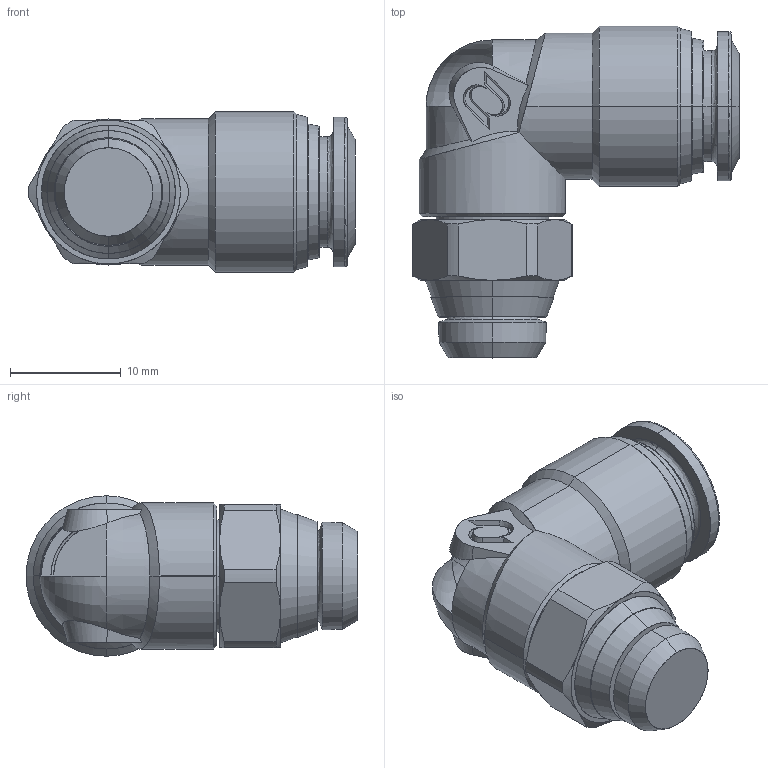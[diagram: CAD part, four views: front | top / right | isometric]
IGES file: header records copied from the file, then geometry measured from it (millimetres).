
Start section: SolidWorks IGES file using analytic representation for surfaces
Global section: file name: K:\Disegni Esecutivi\ALPHA TECHNOLOGIES\Assiemi-89000\89111\89111_iges\8911100008A.IGS; native system: SolidWorks 2011; preprocessor: SolidWorks 2011; author: cad05; date: 110215.143724; units: millimetre
Bounding box: 29.5 x 30 x 14.5 mm (x, y, z)
Surface area: 2296.8 mm2 (no closed solid volume)
Topology: 0 solids, 0 shells, 123 faces, 1625 edges, 1623 vertices
Faces by surface type: revolution 68, bspline 55
